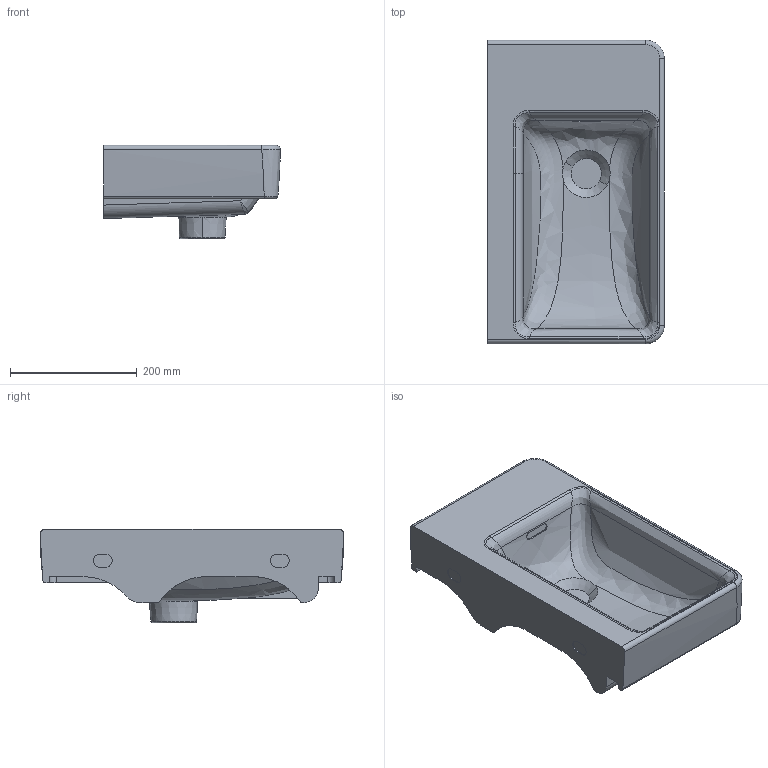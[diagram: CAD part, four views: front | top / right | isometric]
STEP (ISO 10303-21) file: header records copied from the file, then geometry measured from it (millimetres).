
FILE_DESCRIPTION(('CATIA V5 STEP'),'2;1');
FILE_NAME('G:\Laufen Similor\TPM-K\TPE\JStöckli\BIM\Laufen pro\15954\HY15954BIM.stp','2017-01-26T09:01:32+00:00',('none'),('none'),'CATIA Version 5 Release 19 SP 9 (IN-10)','CATIA V5 STEP AP203','none');
FILE_SCHEMA(('CONFIG_CONTROL_DESIGN'));
Length unit declared in the file: millimetre
Products named in the file (1): HY15954BIM
Bounding box: 279.47 x 479.94 x 148 mm (x, y, z)
Volume: 4955468.4 mm3; surface area: 549483.1 mm2
Topology: 1 solids, 1 shells, 104 faces, 272 edges, 174 vertices
Faces by surface type: bspline 49, plane 31, cylinder 18, cone 4, torus 2
Entity records: 17269 total; most frequent: CARTESIAN_POINT 15191, ORIENTED_EDGE 538, EDGE_CURVE 269, DIRECTION 203, VERTEX_POINT 171, B_SPLINE_CURVE_WITH_KNOTS 163, EDGE_LOOP 108, ADVANCED_FACE 104
